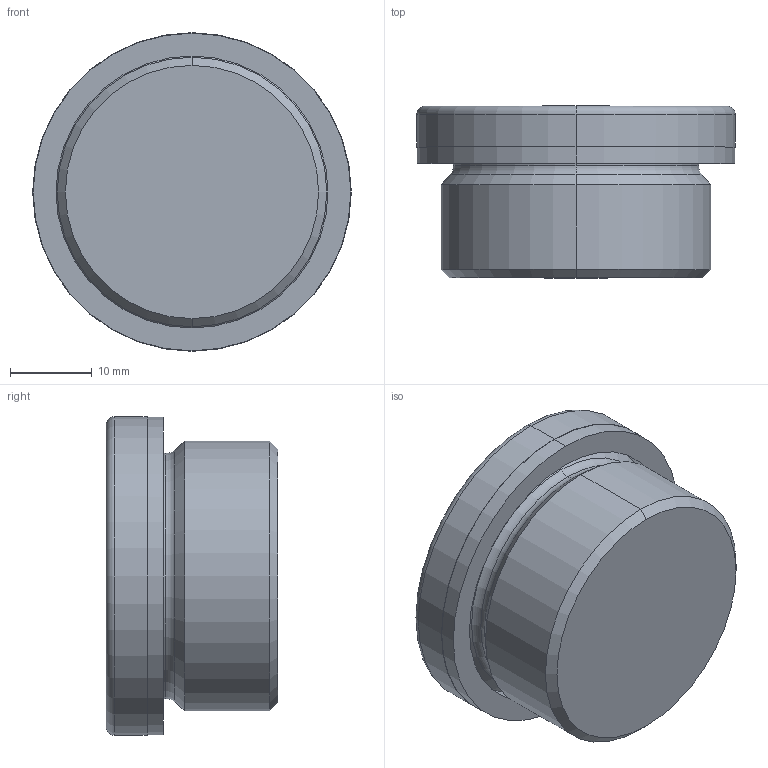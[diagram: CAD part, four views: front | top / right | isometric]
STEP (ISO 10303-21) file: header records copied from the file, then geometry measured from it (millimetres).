
FILE_DESCRIPTION (( 'STEP AP214' ), '1' );
FILE_NAME ('908-ST-M33x2-AC.step', '2024-12-19T09:18:07', ( '' ), ( '' ), 'SwSTEP 2.0', 'SolidWorks 2022', '' );
FILE_SCHEMA (( 'AUTOMOTIVE_DESIGN' ));
Length unit declared in the file: millimetre
Products named in the file (1): 908-ST-M33x2-AC
Bounding box: 39 x 21 x 39 mm (x, y, z)
Volume: 17544.1 mm3; surface area: 5599.5 mm2
Topology: 1 solids, 1 shells, 31 faces, 64 edges, 38 vertices
Faces by surface type: plane 11, cylinder 8, torus 6, cone 6
Entity records: 929 total; most frequent: DIRECTION 160, CARTESIAN_POINT 134, ORIENTED_EDGE 128, AXIS2_PLACEMENT_3D 64, EDGE_CURVE 64, VERTEX_POINT 38, EDGE_LOOP 34, VECTOR 32
